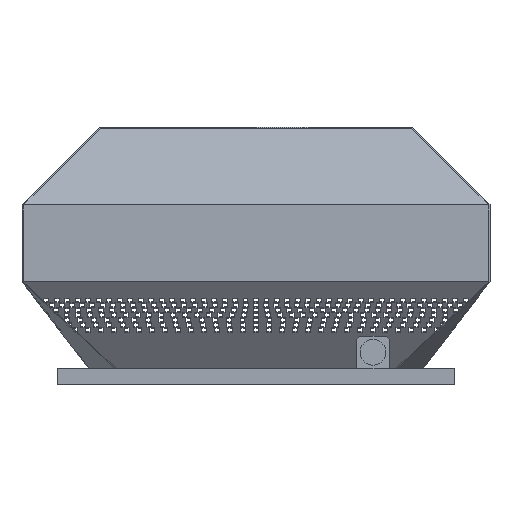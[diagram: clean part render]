
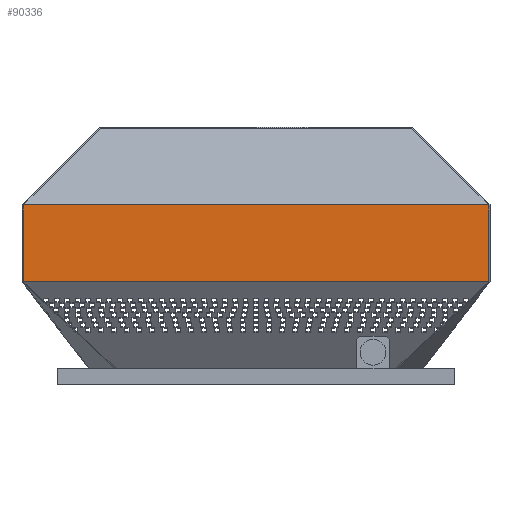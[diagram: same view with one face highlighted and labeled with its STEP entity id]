
A CAD part, left-side view. The second image highlights one B-rep face of the part: STEP entity #90336.
In plain terms, the highlighted planar face has unit normal (-1, 0, 0).
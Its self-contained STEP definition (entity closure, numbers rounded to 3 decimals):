
#7718=PLANE('',#94383);
#11717=FACE_OUTER_BOUND('',#17571,.T.);
#17571=EDGE_LOOP('',(#86302,#86303,#86304,#86305));
#17954=LINE('',#115323,#30072);
#29686=LINE('',#138743,#41804);
#29687=LINE('',#138746,#41805);
#29688=LINE('',#138747,#41806);
#30072=VECTOR('',#95004,10.);
#41804=VECTOR('',#114540,10.);
#41805=VECTOR('',#114543,10.);
#41806=VECTOR('',#114544,10.);
#42102=VERTEX_POINT('',#115320);
#42103=VERTEX_POINT('',#115322);
#49888=VERTEX_POINT('',#138739);
#49890=VERTEX_POINT('',#138745);
#50270=EDGE_CURVE('',#42103,#42102,#17954,.T.);
#62028=EDGE_CURVE('',#49888,#42103,#29686,.T.);
#62029=EDGE_CURVE('',#49890,#49888,#29687,.T.);
#62030=EDGE_CURVE('',#49890,#42102,#29688,.T.);
#86302=ORIENTED_EDGE('',*,*,#62029,.T.);
#86303=ORIENTED_EDGE('',*,*,#62028,.T.);
#86304=ORIENTED_EDGE('',*,*,#50270,.T.);
#86305=ORIENTED_EDGE('',*,*,#62030,.F.);
#90336=ADVANCED_FACE('',(#11717),#7718,.F.);
#94383=AXIS2_PLACEMENT_3D('',#138744,#114541,#114542);
#95004=DIRECTION('',(0.,-1.,0.));
#114540=DIRECTION('',(0.,0.,-1.));
#114541=DIRECTION('center_axis',(1.,0.,0.));
#114542=DIRECTION('ref_axis',(0.,0.,-1.));
#114543=DIRECTION('',(0.,1.,0.));
#114544=DIRECTION('',(0.,0.,-1.));
#115320=CARTESIAN_POINT('',(-430.,-430.,189.2));
#115322=CARTESIAN_POINT('',(-430.,430.,189.2));
#115323=CARTESIAN_POINT('',(-430.,430.,189.2));
#138739=CARTESIAN_POINT('',(-430.,430.,331.1));
#138743=CARTESIAN_POINT('',(-430.,430.,331.1));
#138744=CARTESIAN_POINT('Origin',(-430.,430.,331.1));
#138745=CARTESIAN_POINT('',(-430.,-430.,331.1));
#138746=CARTESIAN_POINT('',(-430.,430.,331.1));
#138747=CARTESIAN_POINT('',(-430.,-430.,331.1));
